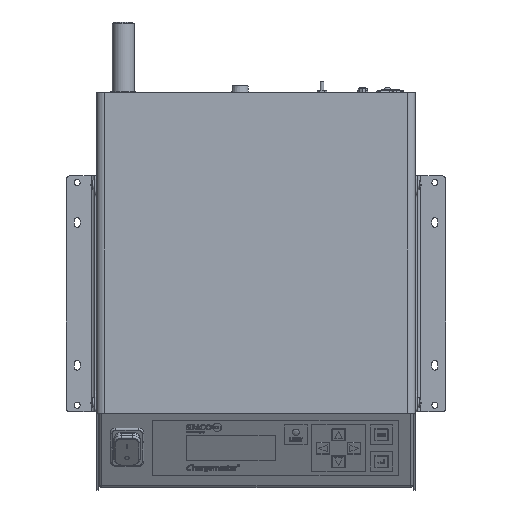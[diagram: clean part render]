
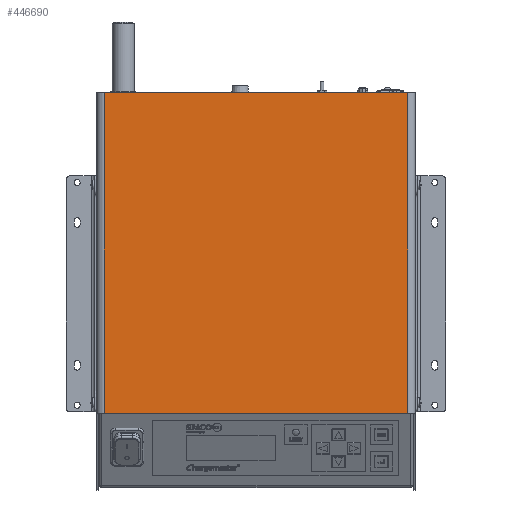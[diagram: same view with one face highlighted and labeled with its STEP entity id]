
A CAD part, top view. The second image highlights one B-rep face of the part: STEP entity #446690.
In plain terms, the highlighted planar face has unit normal (0, 0, 1).
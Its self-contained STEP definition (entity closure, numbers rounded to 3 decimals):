
#446690=ADVANCED_FACE('', (#446700), #446710, .T.);
#1088450=AXIS2_PLACEMENT_3D('Ax2Pl3d', #1088460, #1088470, #1088480);
#1906820=CARTESIAN_POINT('', (47.278,130.655,166.73)
);
#1906830=CARTESIAN_POINT('', (47.278,130.655,166.73)
);
#1906840=CARTESIAN_POINT('', (297.778,130.655,166.73)
);
#1907030=CARTESIAN_POINT('', (297.778,-134.145,
166.73));
#1907040=CARTESIAN_POINT('', (47.278,-134.145,
166.73));
#1907050=CARTESIAN_POINT('', (47.278,-134.145,
166.73));
#1907070=CARTESIAN_POINT('', (47.278,130.655,166.73)
);
#1088460=CARTESIAN_POINT('HicPkt', (47.278,-134.145,
166.73));
#1907080=CARTESIAN_POINT('', (297.778,-134.145,
166.73));
#3861210=DIRECTION('', (-1.,0.,0.));
#3861320=DIRECTION('', (-1.,0.,0.));
#3861340=DIRECTION('', (0.,1.,0.));
#1088470=DIRECTION('Axis', (-0.,-0.,1.));
#1088480=DIRECTION('RefDirection', (0.,-1.,-0.));
#3861350=DIRECTION('', (0.,-1.,0.));
#5019320=EDGE_CURVE('', #5019330, #5019310, #5019340, .T.);
#5019670=EDGE_CURVE('', #5019660, #5019680, #5019690, .T.);
#5019730=EDGE_CURVE('', #5019680, #5019310, #5019740, .T.);
#5019750=EDGE_CURVE('', #5019330, #5019660, #5019760, .T.);
#6074880=EDGE_LOOP('Edge_loop', (#6074890,#6074900,#6074910,#6074920));
#446700=FACE_OUTER_BOUND('Face_outer_bound', #6074880, .T.);
#5019340=LINE('Line', #1906830, #6846090);
#5019690=LINE('Line', #1907040, #6846200);
#5019740=LINE('Line', #1907070, #6846220);
#5019760=LINE('Line', #1907080, #6846230);
#6074890=ORIENTED_EDGE('', *, *, #5019730, .F.);
#6074900=ORIENTED_EDGE('', *, *, #5019670, .F.);
#6074910=ORIENTED_EDGE('', *, *, #5019750, .F.);
#6074920=ORIENTED_EDGE('', *, *, #5019320, .T.);
#446710=PLANE('Plane', #1088450);
#6846090=VECTOR('', #3861210, 250.5);
#6846200=VECTOR('', #3861320, 250.5);
#6846220=VECTOR('', #3861340, 264.8);
#6846230=VECTOR('', #3861350, 264.8);
#5019310=VERTEX_POINT('', #1906820);
#5019330=VERTEX_POINT('', #1906840);
#5019660=VERTEX_POINT('', #1907030);
#5019680=VERTEX_POINT('', #1907050);
